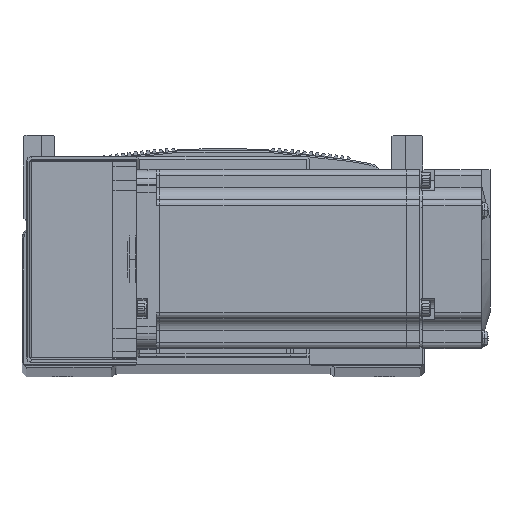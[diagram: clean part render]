
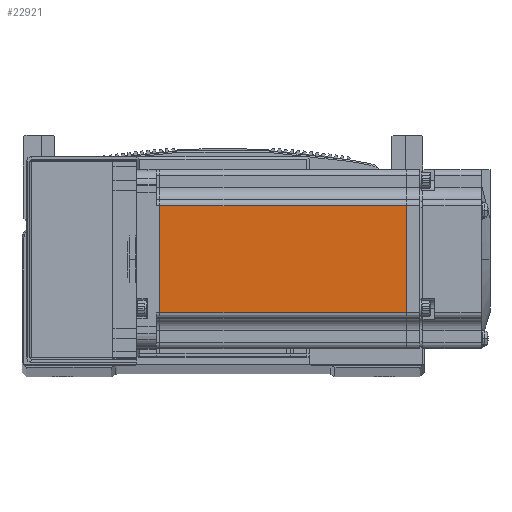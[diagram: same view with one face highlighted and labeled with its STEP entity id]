
A CAD part, top view. The second image highlights one B-rep face of the part: STEP entity #22921.
In plain terms, the highlighted planar face has unit normal (0, 0, 1) as drawn and (0, 0, -1) by its records, which use the part's own axes.
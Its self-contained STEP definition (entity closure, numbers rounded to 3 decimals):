
#4095 = AXIS2_PLACEMENT_3D ( 'NONE', #29250, #29291, #29248 ) ;
#22921 = ADVANCED_FACE ( 'NONE', ( #49957 ), #29259, .T. ) ;
#25094 = EDGE_LOOP ( 'NONE', ( #46619, #46506, #46392, #46537 ) ) ;
#29248 = DIRECTION ( 'NONE',  ( -1., 0., 0. ) ) ;
#29250 = CARTESIAN_POINT ( 'NONE',  ( -6.5, 25., -30. ) ) ;
#29259 = PLANE ( 'NONE',  #4095 ) ;
#29291 = DIRECTION ( 'NONE',  ( 0., 0., -1. ) ) ;
#31795 = VERTEX_POINT ( 'NONE', #33481 ) ;
#31809 = VERTEX_POINT ( 'NONE', #33389 ) ;
#31840 = VERTEX_POINT ( 'NONE', #33357 ) ;
#31852 = VERTEX_POINT ( 'NONE', #33369 ) ;
#33357 = CARTESIAN_POINT ( 'NONE',  ( -90.45, 18., -30. ) ) ;
#33369 = CARTESIAN_POINT ( 'NONE',  ( -90.45, -18., -30. ) ) ;
#33389 = CARTESIAN_POINT ( 'NONE',  ( -7.75, -18., -30. ) ) ;
#33481 = CARTESIAN_POINT ( 'NONE',  ( -7.75, 18., -30. ) ) ;
#46392 = ORIENTED_EDGE ( 'NONE', *, *, #77853, .T. ) ;
#46506 = ORIENTED_EDGE ( 'NONE', *, *, #77912, .T. ) ;
#46537 = ORIENTED_EDGE ( 'NONE', *, *, #77948, .T. ) ;
#46619 = ORIENTED_EDGE ( 'NONE', *, *, #77901, .T. ) ;
#49957 = FACE_OUTER_BOUND ( 'NONE', #25094, .T. ) ;
#64847 = LINE ( 'NONE', #69115, #64848 ) ;
#64848 = VECTOR ( 'NONE', #69104, 1000. ) ;
#64982 = VECTOR ( 'NONE', #69217, 1000. ) ;
#64987 = LINE ( 'NONE', #69210, #64982 ) ;
#65001 = VECTOR ( 'NONE', #69216, 1000. ) ;
#65010 = LINE ( 'NONE', #69243, #65001 ) ;
#65048 = LINE ( 'NONE', #69301, #65068 ) ;
#65068 = VECTOR ( 'NONE', #69281, 1000. ) ;
#69104 = DIRECTION ( 'NONE',  ( 0., 1., 0. ) ) ;
#69115 = CARTESIAN_POINT ( 'NONE',  ( -90.45, 25., -30. ) ) ;
#69210 = CARTESIAN_POINT ( 'NONE',  ( -6.5, -18., -30. ) ) ;
#69216 = DIRECTION ( 'NONE',  ( 0., -1., 0. ) ) ;
#69217 = DIRECTION ( 'NONE',  ( -1., 0., 0. ) ) ;
#69243 = CARTESIAN_POINT ( 'NONE',  ( -7.75, 25., -30. ) ) ;
#69281 = DIRECTION ( 'NONE',  ( 1., 0., 0. ) ) ;
#69301 = CARTESIAN_POINT ( 'NONE',  ( -6.5, 18., -30. ) ) ;
#77853 = EDGE_CURVE ( 'NONE', #31852, #31840, #64847, .T. ) ;
#77901 = EDGE_CURVE ( 'NONE', #31795, #31809, #65010, .T. ) ;
#77912 = EDGE_CURVE ( 'NONE', #31809, #31852, #64987, .T. ) ;
#77948 = EDGE_CURVE ( 'NONE', #31840, #31795, #65048, .T. ) ;
